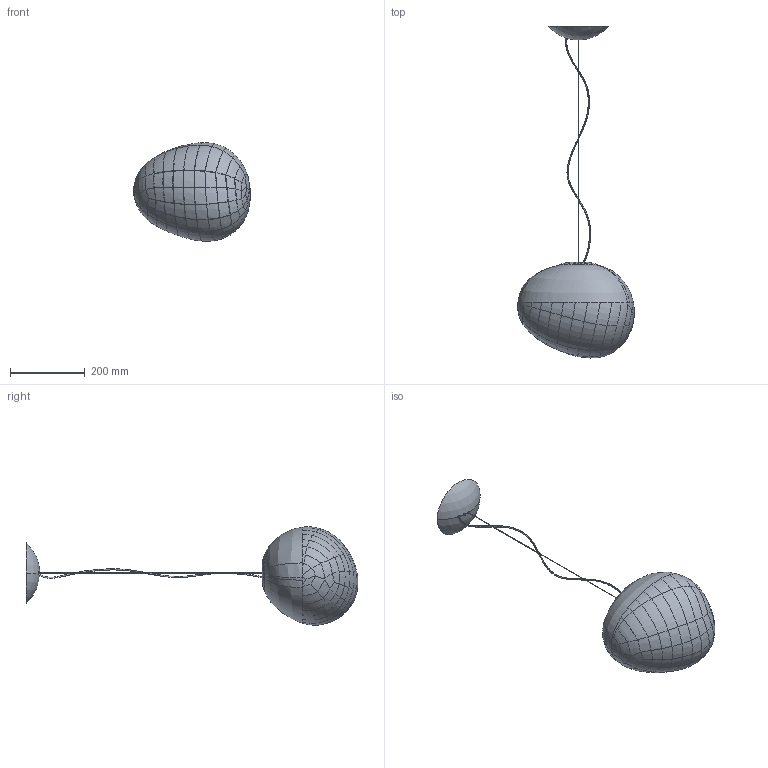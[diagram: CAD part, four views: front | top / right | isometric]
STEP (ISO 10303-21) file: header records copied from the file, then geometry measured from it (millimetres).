
FILE_DESCRIPTION (( 'STEP AP203' ), '1' );
FILE_NAME ('168_MEDIA_S_ME_3D.STEP', '2021-04-07T10:33:40', ( '' ), ( '' ), 'SwSTEP 2.0', 'SolidWorks 2021', '' );
FILE_SCHEMA (( 'CONFIG_CONTROL_DESIGN' ));
Products named in the file (1): 168_MEDIA_S_ME_3D
Bounding box: 311.02 x 885.29 x 262.46 mm (x, y, z)
Volume: 1043046.9 mm3; surface area: 549801.8 mm2
Topology: 4 solids, 4 shells, 1570 faces, 3838 edges, 2212 vertices
Faces by surface type: bspline 725, cylinder 211, torus 207, plane 198, cone 138, sphere 91
Entity records: 329930 total; most frequent: CARTESIAN_POINT 299366, ORIENTED_EDGE 7480, DIRECTION 4871, EDGE_CURVE 3740, VERTEX_POINT 2204, AXIS2_PLACEMENT_3D 2163, B_SPLINE_CURVE_WITH_KNOTS 1692, EDGE_LOOP 1608
